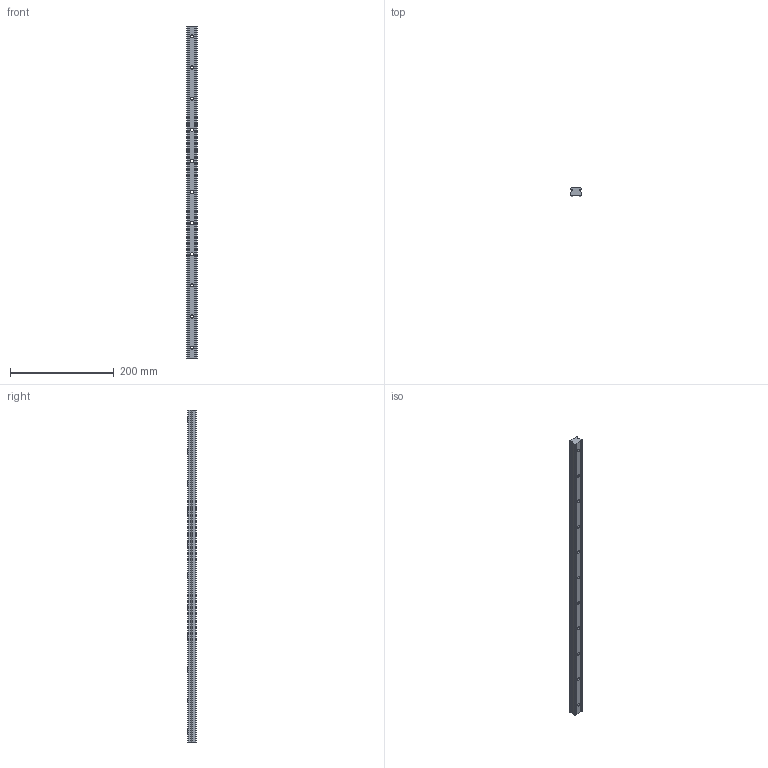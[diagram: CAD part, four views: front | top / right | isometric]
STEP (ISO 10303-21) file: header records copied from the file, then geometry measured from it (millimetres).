
FILE_DESCRIPTION (( 'STEP AP203' ), '1' );
FILE_NAME ('L1016.BL20-0640.step', '2019-06-12T11:46:57', ( '' ), ( '' ), 'SwSTEP 2.0', 'SolidWorks 2017', '' );
FILE_SCHEMA (( 'CONFIG_CONTROL_DESIGN' ));
Length unit declared in the file: millimetre
Products named in the file (1): L1016.BL20-0640
Bounding box: 20 x 16.3 x 640 mm (x, y, z)
Volume: 177694.9 mm3; surface area: 52019.7 mm2
Topology: 1 solids, 1 shells, 81 faces, 204 edges, 136 vertices
Faces by surface type: cylinder 48, plane 33
Entity records: 2595 total; most frequent: DIRECTION 464, CARTESIAN_POINT 422, ORIENTED_EDGE 408, EDGE_CURVE 204, AXIS2_PLACEMENT_3D 178, VERTEX_POINT 136, EDGE_LOOP 114, VECTOR 108
